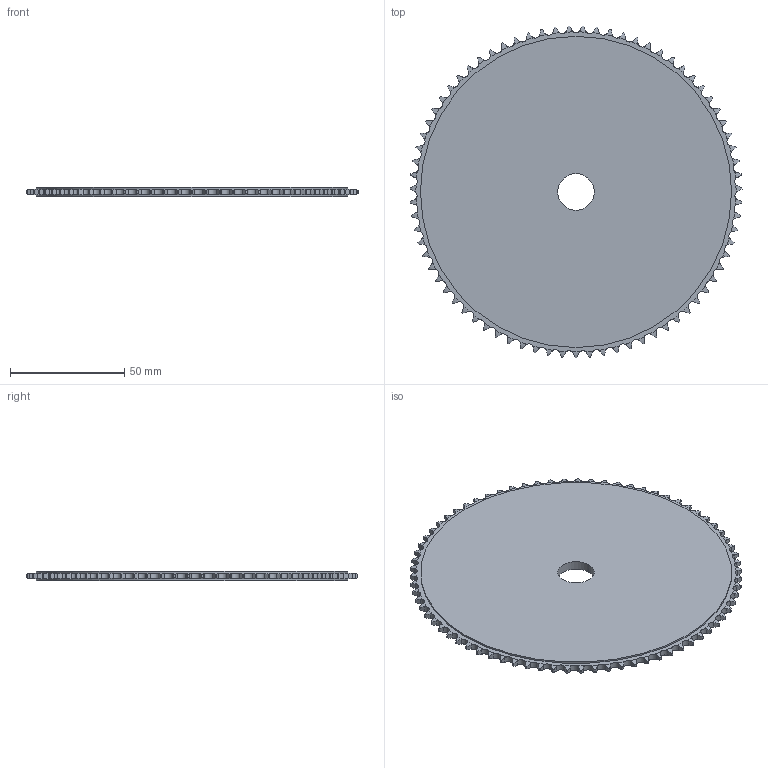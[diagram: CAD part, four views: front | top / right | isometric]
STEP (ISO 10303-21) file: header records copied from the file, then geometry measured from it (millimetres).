
FILE_DESCRIPTION((''),'2;1');
FILE_NAME('500-061-0075_PRT','2021-02-12T',('Brieden'),('Brieden'),'PRO/ENGINEER BY PARAMETRIC TECHNOLOGY CORPORATION, 2010160','PRO/ENGINEER BY PARAMETRIC TECHNOLOGY CORPORATION, 2010160','');
FILE_SCHEMA(('AUTOMOTIVE_DESIGN { 1 0 10303 214 1 1 1 1 }'));
Length unit declared in the file: millimetre
Products named in the file (1): 500-061-0075_PRT
Bounding box: 145.39 x 145.36 x 4 mm (x, y, z)
Volume: 60408.3 mm3; surface area: 33454.5 mm2
Topology: 1 solids, 1 shells, 460 faces, 1368 edges, 912 vertices
Faces by surface type: cylinder 306, torus 150, plane 4
Entity records: 21542 total; most frequent: CARTESIAN_POINT 5753, ORIENTED_EDGE 2736, DIRECTION 2150, PRESENTATION_STYLE_ASSIGNMENT 1369, STYLED_ITEM 1369, CURVE_STYLE 1368, EDGE_CURVE 1368, AXIS2_PLACEMENT_3D 922
